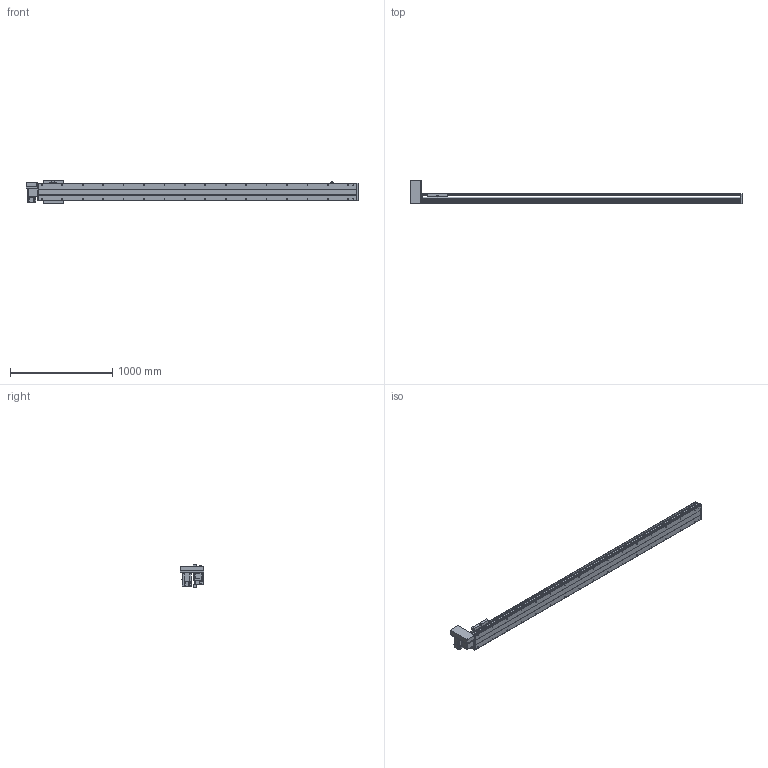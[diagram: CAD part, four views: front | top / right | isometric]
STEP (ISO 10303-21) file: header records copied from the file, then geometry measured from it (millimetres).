
FILE_DESCRIPTION(/* description */ ('STEP AP214'),/* implementation_level */ '2;1');
FILE_NAME(/* name */ 'PBS200-P40-S2750-RU-T75-C1-N(0)',/* time_stamp */ '2022-06-11T09:37:44+02:00',/* author */ ('License CC BY-ND 4.0'),/* organization */ ('CADENAS'),/* preprocessor_version */ 'ST-DEVELOPER v18.102',/* originating_system */ 'PARTsolutions',/* authorisation */ ' ');
FILE_SCHEMA (('AUTOMOTIVE_DESIGN {1 0 10303 214 3 1 1}'));
Length unit declared in the file: millimetre
Products named in the file (7): PBS200-P40-S2750-RU-T75-C1-N(0); PBS200_sensor; PBS200_plant; PBS200_sliser; T75-p1; PBS200T-RU_motors; PBS200-S2750()_body
Assembly tree (8 placements, depth 2):
  PBS200-P40-S2750-RU-T75-C1-N(0)
    PBS200_sensor  x3
    PBS200_plant
    PBS200_sliser
    T75-p1
    PBS200T-RU_motors
    PBS200-S2750()_body
Bounding box: 3250 x 231 x 221 mm (x, y, z)
Volume: 22164630.9 mm3; surface area: 3542712.8 mm2
Topology: 8 solids, 8 shells, 974 faces, 2464 edges, 1602 vertices
Faces by surface type: plane 592, cylinder 316, cone 66
Full cylindrical faces by diameter (mm): 2.459 x6, 3.242 x4, 4.5 x6, 4.917 x4, 5 x6, 6 x7, 6.6 x8, 6.647 x38, 8 x6, 10 x4, 12 x8, 38 x2, 40 x1, 70 x1
Entity records: 25661 total; most frequent: DIRECTION 4543, CARTESIAN_POINT 4354, ORIENTED_EDGE 4090, EDGE_CURVE 2045, AXIS2_PLACEMENT_3D 1615, VERTEX_POINT 1426, LINE 1313, VECTOR 1313
